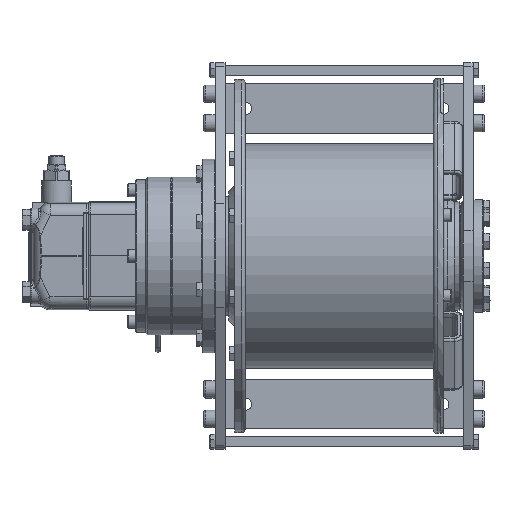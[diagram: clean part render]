
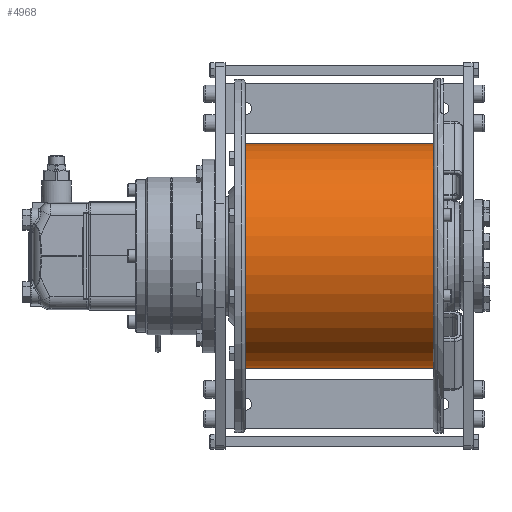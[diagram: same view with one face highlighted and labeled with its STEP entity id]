
A CAD part, top view. The second image highlights one B-rep face of the part: STEP entity #4968.
In plain terms, the highlighted cylindrical face has radius 136.5 mm (diameter 273 mm), a full revolution.
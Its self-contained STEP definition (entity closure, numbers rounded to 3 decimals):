
#4968 = ADVANCED_FACE( '', ( #9967, #9968 ), #9969, .T. );
#9967 = FACE_OUTER_BOUND( '', #31248, .T. );
#9968 = FACE_OUTER_BOUND( '', #31249, .T. );
#9969 = CYLINDRICAL_SURFACE( '', #31250, 136.5 );
#31248 = EDGE_LOOP( '', ( #51777 ) );
#31249 = EDGE_LOOP( '', ( #51778 ) );
#31250 = AXIS2_PLACEMENT_3D( '', #51779, #51780, #51781 );
#51777 = ORIENTED_EDGE( '', *, *, #59358, .F. );
#51778 = ORIENTED_EDGE( '', *, *, #60228, .F. );
#51779 = CARTESIAN_POINT( '', ( 150.999, 0., 0. ) );
#51780 = DIRECTION( '', ( 1., 0., 0. ) );
#51781 = DIRECTION( '', ( 0., 0., 1. ) );
#59358 = EDGE_CURVE( '', #65166, #65166, #65167, .T. );
#60228 = EDGE_CURVE( '', #66571, #66571, #66572, .T. );
#65166 = VERTEX_POINT( '', #75817 );
#65167 = CIRCLE( '', #75818, 136.5 );
#66571 = VERTEX_POINT( '', #79991 );
#66572 = CIRCLE( '', #79992, 136.5 );
#75817 = CARTESIAN_POINT( '', ( 265.499, 0., -136.5 ) );
#75818 = AXIS2_PLACEMENT_3D( '', #92373, #92374, #92375 );
#79991 = CARTESIAN_POINT( '', ( 36.499, 0., -136.5 ) );
#79992 = AXIS2_PLACEMENT_3D( '', #93459, #93460, #93461 );
#92373 = CARTESIAN_POINT( '', ( 265.499, 0., 0. ) );
#92374 = DIRECTION( '', ( 1., 0., 0. ) );
#92375 = DIRECTION( '', ( 0., 0., -1. ) );
#93459 = CARTESIAN_POINT( '', ( 36.499, 0., 0. ) );
#93460 = DIRECTION( '', ( -1., 0., 0. ) );
#93461 = DIRECTION( '', ( 0., 0., -1. ) );
